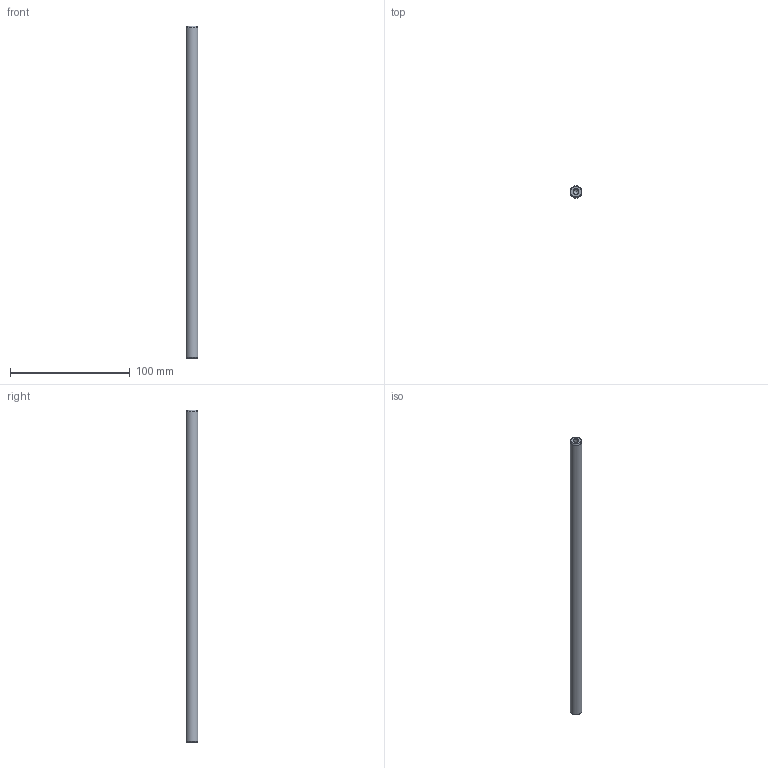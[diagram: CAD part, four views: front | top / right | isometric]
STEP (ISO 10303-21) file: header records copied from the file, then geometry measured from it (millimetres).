
FILE_DESCRIPTION( ( 'STEP AP214' ), '1' );
FILE_NAME( 'U:/Etudes/Top Solid/BIBLIO_Fournisseur/Colonnes UG/Ø10x277.step', '2005-01-11T13:26:21', ( ' ' ), ( ' ' ), 'XStep 1.0', ' ', ' ' );
FILE_SCHEMA( ( 'automotive_design' ) );
Length unit declared in the file: metre
Products named in the file (1): 1
Bounding box: 10 x 10 x 277 mm (x, y, z)
Volume: 21368.8 mm3; surface area: 9177.5 mm2
Topology: 1 solids, 1 shells, 13 faces, 27 edges, 16 vertices
Faces by surface type: cone 6, cylinder 5, plane 2
Full cylindrical faces by diameter (mm): 4.134 x4, 10 x1
Entity records: 382 total; most frequent: DIRECTION 52, CARTESIAN_POINT 40, AXIS2_PLACEMENT_3D 26, EDGE_LOOP 24, ORIENTED_EDGE 24, FACE_OUTER_BOUND 18, VERTEX_POINT 14, STYLED_ITEM 13
